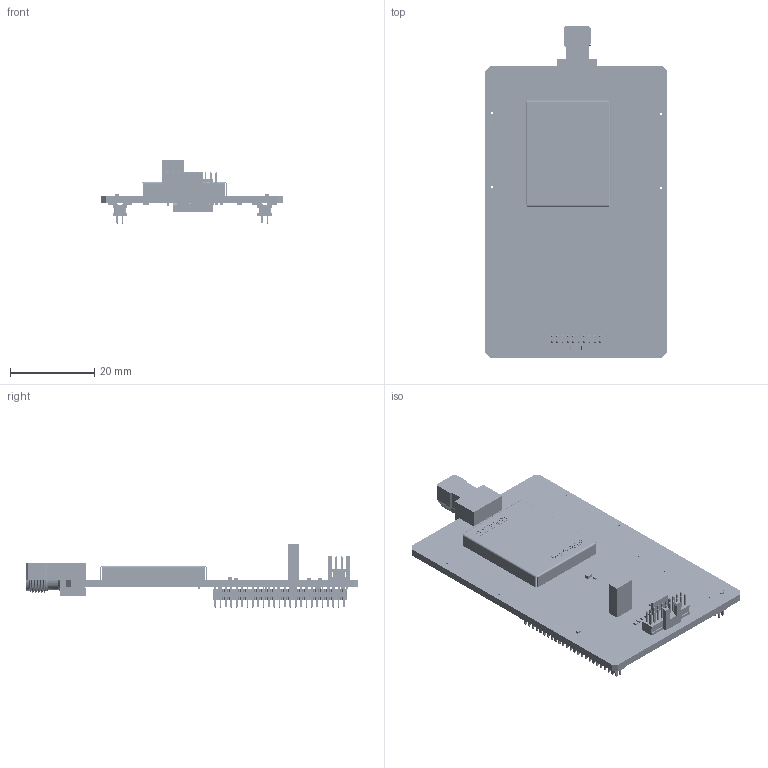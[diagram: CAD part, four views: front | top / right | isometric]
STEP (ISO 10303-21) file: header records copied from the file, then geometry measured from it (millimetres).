
FILE_DESCRIPTION(('Open CASCADE Model'),'2;1');
FILE_NAME('Open CASCADE Shape Model','2024-11-20T13:04:09',('Author'),( 'Open CASCADE'),'Open CASCADE STEP processor 7.5','Open CASCADE 7.5' ,'Unknown');
FILE_SCHEMA(('AUTOMOTIVE_DESIGN { 1 0 10303 214 1 1 1 1 }'));
Length unit declared in the file: millimetre
Products named in the file (141): PCB; Board; Open CASCADE STEP translator 7.5 1.1.1; L1_IPD; C0402; 7031429696; Extruded; JP1; TSW-102-07-G-S; _TSW-102-07-G-S_body; _T-1S6-07-TSW-1-07-2-S; 7030398400; HW1; s02-25200300; C29; 7030397760; SB57; R0402; 7030390960; SB56; SB52; SB50; 7030390320; SB49; SB48; SB47; SB46; SB45; SB44; SB34; SB33; SB30; SB28; SB25; SB23; SB20; SB17; SB15; SB13; SB12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
Assembly tree (375 placements, depth 4):
  PCB
    Board
      Open CASCADE STEP translator 7.5 1.1.1
    L1_IPD
      C0402
      7031429696
        Extruded
    JP1
      TSW-102-07-G-S
        _TSW-102-07-G-S_body
        _T-1S6-07-TSW-1-07-2-S
      7030398400
        Extruded
    HW1
      s02-25200300
    C29
      C0402
      7030397760
        Extruded
    SB57
      R0402
      7030390960
        Extruded
    SB56
      R0402
      7030390960
        Extruded
    SB52
      R0402
      7030390960
        Extruded
    SB50
      R0402
      7030390320
        Extruded
    SB49
      R0402
      7030390320
        Extruded
    SB48
      R0402
      7030390320
        Extruded
    SB47
      R0402
      7030390320
        Extruded
    SB46
      R0402
      7030390320
        Extruded
    SB45
      R0402
      7030390960
        Extruded
    SB44
      R0402
      7030390320
        Extruded
    SB34
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Bounding box: 43 x 78.6 x 14.98 mm (x, y, z)
Volume: 7094 mm3; surface area: 13161.4 mm2
Topology: 541 solids, 541 shells, 17032 faces, 40273 edges, 23120 vertices
Faces by surface type: plane 7677, cylinder 4531, bspline 2497, sphere 1825, torus 288, revolution 208, cone 6
Full cylindrical faces by diameter (mm): 0.4 x1, 0.5 x4, 0.991 x1, 1 x2, 4.674 x1, 5.08 x1, 5.385 x1
Entity records: 138015 total; most frequent: CARTESIAN_POINT 28714, ORIENTED_EDGE 19862, DIRECTION 18642, EDGE_CURVE 9931, LINE 8918, VECTOR 8918, VERTEX_POINT 6363, AXIS2_PLACEMENT_3D 4858
